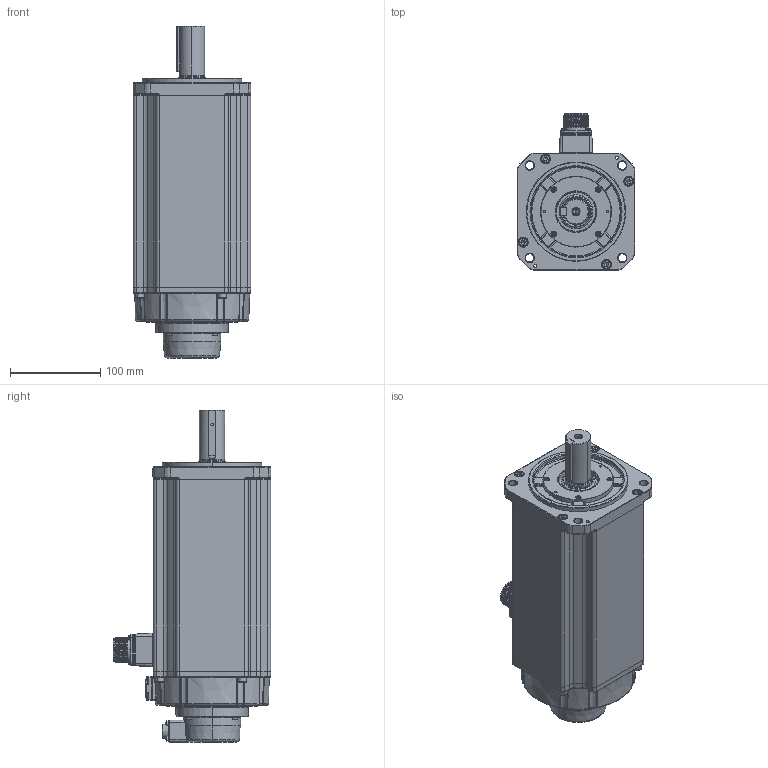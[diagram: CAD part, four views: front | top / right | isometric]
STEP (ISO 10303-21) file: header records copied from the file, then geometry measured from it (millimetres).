
FILE_DESCRIPTION (( 'STEP AP214' ), '1' );
FILE_NAME ('RSA1-S-130-5kw-B.STEP', '2024-08-12T02:21:24', ( '' ), ( '' ), 'SwSTEP 2.0', 'SolidWorks 2020', '' );
FILE_SCHEMA (( 'AUTOMOTIVE_DESIGN' ));
Length unit declared in the file: millimetre
Products named in the file (18): 130-蚐猾_TC30x45x8(NBR); 内六角圆柱头螺钉_M6x20; 130雄薯瑤脣價釱; 内六角圆柱头和平垫圈组合螺钉_M3x16; 130-S-5kw儂褲; 130-惕掅綴傷裔; 130-S-ヶ傷裔; す瑩_B8x7x50; 坋趼羞攫芛蹟隊_M3x30; 130-苤嫦講粣創裔啣; 130梓袧綴裔; 内六角圆柱头螺钉_M3x10; 惕掅雄薯瑤脣; 130秶雄ん盄揤裔; 4140000005_电机内部编码器线_7x26AWG(0.1m-CMV1-10芯螺纹插座_GACJ3045); RSA1-S-130-5kw-B; 130-苤嫦講-粣噤28; ﾊｮﾗﾖｲﾛﾅﾌﾍｷﾗﾔｼｷﾂﾝｶ､_M3x8
Assembly tree (40 placements, depth 2):
  RSA1-S-130-5kw-B
    130-S-5kw儂褲
    130雄薯瑤脣價釱
    130-S-ヶ傷裔
    130-苤嫦講-粣噤28
    惕掅雄薯瑤脣
    130-苤嫦講粣創裔啣
    130-蚐猾_TC30x45x8(NBR)
    130-惕掅綴傷裔
    130梓袧綴裔
    4140000005_电机内部编码器线_7x26AWG(0.1m-CMV1-10芯螺纹插座_GACJ3045)
    内六角圆柱头螺钉_M6x20  x8
    内六角圆柱头和平垫圈组合螺钉_M3x16  x4
    内六角圆柱头螺钉_M3x10  x4
    坋趼羞攫芛蹟隊_M3x30  x8
    ﾊｮﾗﾖｲﾛﾅﾌﾍｷﾗﾔｼｷﾂﾝｶ､_M3x8  x4
    す瑩_B8x7x50
    130秶雄ん盄揤裔
Bounding box: 130 x 174.4 x 367.9 mm (x, y, z)
Volume: 3609455.4 mm3; surface area: 338406.1 mm2
Topology: 44 solids, 46 shells, 3479 faces, 8562 edges, 5338 vertices
Faces by surface type: plane 1639, cylinder 862, cone 382, torus 308, bspline 224, sphere 64
Entity records: 113509 total; most frequent: CARTESIAN_POINT 29006, DIRECTION 14272, ORIENTED_EDGE 14176, EDGE_CURVE 7088, AXIS2_PLACEMENT_3D 5146, VERTEX_POINT 4447, VECTOR 3980, LINE 3980
